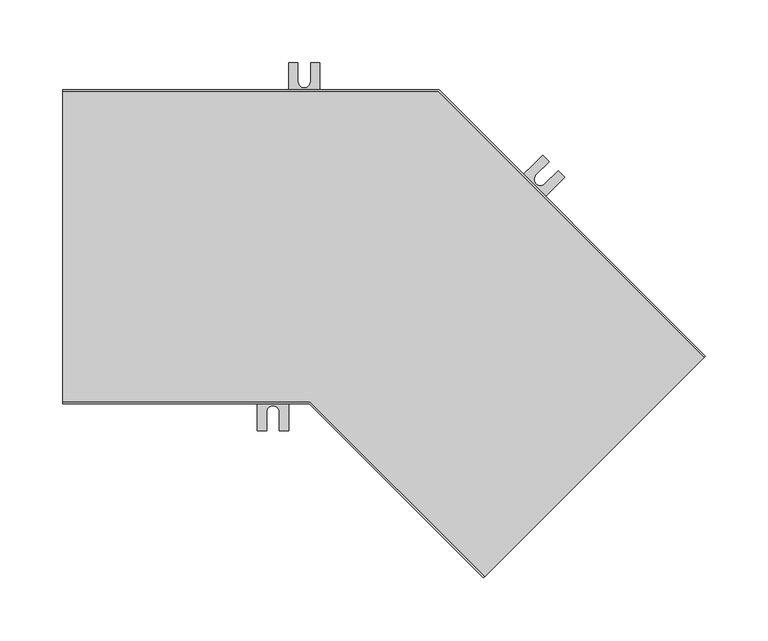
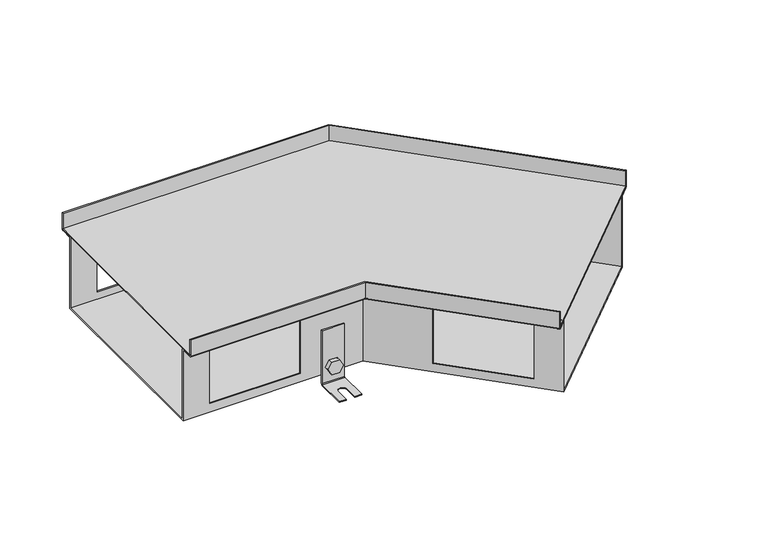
"""IFC4 building model written with IfcOpenShell, lengths in millimetres: proxy geometry, TECHNO_Угловой элемент_KVU : 250_105_135°."""

from ifc_helpers import new_model, si_unit, point, frame, frame_2d, origin, place, context, project, spatial, polyline, circle_curve, ellipse_curve, trimmed, segment, composite_curve, outline, extrude, source, transform, mapped, element, save
from ifc_brep_helpers import plane_surface, cylinder_surface, revolved_surface, advanced_brep


def mechanical_equipment_d0ffbf03(model_context):
    return source(origin(), model_context, "Body", "SolidModel", [
        extrude(outline(composite_curve([segment(trimmed(circle_curve(frame_2d((0.0, -7.5000001)), 7.5), [point((0.0, -15.0))], [point((0.0, 0.0))], False, "CARTESIAN"), True, "CONTINUOUS"), segment(trimmed(circle_curve(frame_2d((0.0, -7.5000001)), 7.5), [point((0.0, 0.0))], [point((0.0, -15.0))], False, "CARTESIAN"), True, "CONTINUOUS")], self_intersect=False)), frame((347.6589971, -25.3309017, -95.5), z_axis=(0.7071067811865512, 0.7071067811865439, 0.0), x_axis=(0.0, 0.0, 1.0)), (0.0, 0.0, 1.0), 1.5),
        extrude(outline(polyline([(0.0, 0.0), (8.6602541, 0.0), (12.9903811, -7.5), (8.660254, -15.0), (0.0, -15.0), (-4.330127, -7.5), (0.0, 0.0)])), frame((331.7771991, -18.3586492, -95.5), z_axis=(0.7071067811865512, 0.7071067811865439, 0.0), x_axis=(0.3535533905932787, -0.3535533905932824, -0.8660254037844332)), (0.0, 0.0, 1.0), 5.1),
        advanced_brep(
        [(350.3460028, -29.7149637, -50.5), (350.3460028, -29.7149637, -113.5), (349.7803174, -30.2806491, -114.3), (326.4457936, -53.6151729, -114.3), (326.4457936, -53.6151729, -115.5), (349.7803174, -30.2806491, -115.5), (351.194531, -28.8664356, -113.5), (351.194531, -28.8664356, -50.5), (332.6683333, -12.0372942, -50.5), (333.5168614, -11.1887661, -50.5), (333.5168614, -11.1887661, -113.5), (332.1026479, -12.6029796, -115.5), (308.7681241, -35.9375034, -115.5), (308.7681241, -35.9375034, -114.3), (332.1026479, -12.6029796, -114.3), (332.6683333, -12.0372942, -113.5), (314.0714249, -41.2408043, -114.3), (324.6780267, -30.6342025, -114.3), (331.7490945, -37.7052704, -114.3), (321.1424928, -48.3118721, -114.3), (321.1424928, -48.3118721, -115.5), (314.0714249, -41.2408043, -115.5), (331.7490945, -37.7052704, -115.5), (324.6780267, -30.6342025, -115.5)],
        [
            (0, 1),
            (1, 2, circle_curve(frame((349.7803174, -30.2806491, -113.5), z_axis=(-0.7071067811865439, 0.7071067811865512, 0.0), x_axis=(-0.7071067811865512, -0.7071067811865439, 0.0)), 0.8)),
            (2, 3),
            (3, 4),
            (4, 5),
            (5, 6, circle_curve(frame((349.7803174, -30.2806491, -113.5), z_axis=(0.7071067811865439, -0.7071067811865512, 0.0), x_axis=(-0.7071067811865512, -0.7071067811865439, 0.0)), 2.0)),
            (6, 7),
            (7, 0),
            (8, 9),
            (9, 10),
            (10, 11, circle_curve(frame((332.1026479, -12.6029796, -113.5), z_axis=(-0.7071067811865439, 0.7071067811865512, 0.0), x_axis=(-0.7071067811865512, -0.7071067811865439, 0.0)), 2.0)),
            (11, 12),
            (12, 13),
            (13, 14),
            (14, 15, circle_curve(frame((332.1026479, -12.6029796, -113.5), z_axis=(0.7071067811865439, -0.7071067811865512, 0.0), x_axis=(-0.7071067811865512, -0.7071067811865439, 0.0)), 0.8)),
            (15, 8),
            (0, 8),
            (15, 1),
            (14, 2),
            (13, 16),
            (16, 17),
            (17, 18, circle_curve(frame((328.2135606, -34.1697364, -114.3), z_axis=(0.0, 0.0, -1.0), x_axis=(0.7071067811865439, -0.7071067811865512, 0.0)), 5.0)),
            (18, 19),
            (19, 3),
            (19, 20),
            (20, 4),
            (12, 21),
            (21, 16),
            (20, 22),
            (22, 23, circle_curve(frame((328.2135606, -34.1697364, -115.5), z_axis=(0.0, 0.0, 1.0), x_axis=(0.7071067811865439, -0.7071067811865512, 0.0)), 5.0)),
            (23, 21),
            (11, 5),
            (10, 6),
            (9, 7),
            (23, 17),
            (18, 22),
        ],
        [
            plane_surface(frame((350.3460028, -29.7149637, -50.5), z_axis=(0.7071067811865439, -0.7071067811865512, 0.0), x_axis=(0.0, 0.0, -1.0))),
            plane_surface(frame((332.6683333, -12.0372942, -50.5), z_axis=(-0.7071067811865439, 0.7071067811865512, 0.0), x_axis=(0.0, 0.0, 1.0))),
            plane_surface(frame((350.3460028, -29.7149637, -50.5), z_axis=(-0.7071067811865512, -0.7071067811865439, 0.0), x_axis=(-0.7071067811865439, 0.7071067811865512, 0.0))),
            revolved_surface(polyline([(331.53696247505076, -13.168665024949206, -113.5), (349.2146319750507, -30.84633452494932, -113.5)]), (332.1026479, -12.6029796, -113.5), (-0.7071067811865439, 0.7071067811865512, 0.0)),
            plane_surface(frame((349.7803174, -30.2806491, -114.3), z_axis=(0.0, 0.0, 1.0), x_axis=(-0.7071067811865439, 0.7071067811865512, 0.0))),
            plane_surface(frame((326.4457936, -53.6151729, -114.3), z_axis=(-0.7071067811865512, -0.7071067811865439, 0.0), x_axis=(-0.7071067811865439, 0.7071067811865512, 0.0))),
            plane_surface(frame((326.4457936, -53.6151729, -115.5), z_axis=(0.0, 0.0, -1.0), x_axis=(-0.7071067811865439, 0.7071067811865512, 0.0))),
            cylinder_surface(frame((332.1026479, -12.6029796, -113.5), z_axis=(0.7071067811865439, -0.7071067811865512, 0.0), x_axis=(-0.7071067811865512, -0.7071067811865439, 0.0)), 2.0),
            plane_surface(frame((351.194531, -28.8664356, -113.5), z_axis=(0.7071067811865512, 0.7071067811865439, 0.0), x_axis=(-0.7071067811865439, 0.7071067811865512, 0.0))),
            plane_surface(frame((351.194531, -28.8664356, -50.5), z_axis=(0.0, 0.0, 1.0), x_axis=(-0.7071067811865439, 0.7071067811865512, 0.0))),
            plane_surface(frame((324.6780267, -30.6342025, -114.3), z_axis=(0.7071067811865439, -0.7071067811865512, 0.0), x_axis=(0.0, 0.0, -1.0))),
            plane_surface(frame((321.1424928, -48.3118721, -114.3), z_axis=(-0.707106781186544, 0.7071067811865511, 0.0), x_axis=(0.0, 0.0, -1.0))),
            revolved_surface(polyline([(331.7490945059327, -37.70527030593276, -114.3), (331.7490945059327, -37.70527030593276, -115.5)]), (328.2135606, -34.1697364, -115.5), (0.0, 0.0, 1.0)),
        ],
        [
            (0, [[1, 2, 3, 4, 5, 6, 7, 8]]),
            (1, [[9, 10, 11, 12, 13, 14, 15, 16]]),
            (2, [[-1, 17, -16, 18]]),
            (3, [[-2, -18, -15, 19]]),
            (4, [[-3, -19, -14, 20, 21, 22, 23, 24]]),
            (5, [[-4, -24, 25, 26]]),
            (5, [[-13, 27, 28, -20]]),
            (6, [[-5, -26, 29, 30, 31, -27, -12, 32]]),
            (7, [[-6, -32, -11, 33]]),
            (8, [[-7, -33, -10, 34]]),
            (9, [[-8, -34, -9, -17]]),
            (10, [[35, -21, -28, -31]]),
            (11, [[36, -29, -25, -23]]),
            (12, [[-35, -30, -36, -22]]),
        ],
    ),
        extrude(outline(composite_curve([segment(trimmed(circle_curve(frame_2d((0.0, -7.4999999)), 7.5), [point((0.0, -15.0))], [point((0.0, 0.0))], False, "CARTESIAN"), True, "CONTINUOUS"), segment(trimmed(circle_curve(frame_2d((0.0, -7.4999999)), 7.5), [point((0.0, 0.0))], [point((0.0, -15.0))], False, "CARTESIAN"), True, "CONTINUOUS")], self_intersect=False)), frame((360.2454978, 43.8241415, -95.5), z_axis=(0.7071067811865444, 0.7071067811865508, 0.0), x_axis=(0.0, 0.0, -1.0)), (0.0, 0.0, 1.0), 1.5),
        extrude(outline(polyline([(0.0, 0.0), (4.330127, -7.5), (0.0, -15.0), (-8.660254, -15.0), (-12.9903811, -7.5), (-8.6602541, 0.0), (0.0, 0.0)])), frame((373.5817113, 34.3063046, -95.5), z_axis=(0.7071067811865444, 0.7071067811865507, 0.0), x_axis=(0.35355339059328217, -0.35355339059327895, 0.8660254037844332)), (0.0, 0.0, 1.0), 5.1),
        advanced_brep(
        [(358.6191522, 49.2688637, -50.5), (358.6191522, 49.2688637, -113.5), (359.1848376, 49.8345492, -114.3), (382.5193614, 73.1690729, -114.3), (382.5193614, 73.1690729, -115.5), (359.1848376, 49.8345492, -115.5), (357.770624, 48.4203356, -113.5), (357.770624, 48.4203356, -50.5), (376.2968217, 31.5911942, -50.5), (375.4482936, 30.7426661, -50.5), (375.4482936, 30.7426661, -113.5), (376.8625071, 32.1568796, -115.5), (400.1970309, 55.4914034, -115.5), (400.1970309, 55.4914034, -114.3), (376.8625071, 32.1568796, -114.3), (376.2968217, 31.5911942, -113.5), (394.89373, 60.7947043, -114.3), (384.2871283, 50.1881026, -114.3), (377.2160605, 57.2591704, -114.3), (387.8226622, 67.8657721, -114.3), (387.8226622, 67.8657721, -115.5), (394.89373, 60.7947043, -115.5), (377.2160605, 57.2591704, -115.5), (384.2871283, 50.1881026, -115.5)],
        [
            (0, 1),
            (1, 2, circle_curve(frame((359.1848376, 49.8345492, -113.5), z_axis=(0.7071067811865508, -0.7071067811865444, 0.0), x_axis=(0.7071067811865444, 0.7071067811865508, 0.0)), 0.8)),
            (2, 3),
            (3, 4),
            (4, 5),
            (5, 6, circle_curve(frame((359.1848376, 49.8345492, -113.5), z_axis=(-0.7071067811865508, 0.7071067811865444, 0.0), x_axis=(0.7071067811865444, 0.7071067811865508, 0.0)), 2.0)),
            (6, 7),
            (7, 0),
            (8, 9),
            (9, 10),
            (10, 11, circle_curve(frame((376.8625071, 32.1568796, -113.5), z_axis=(0.7071067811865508, -0.7071067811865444, 0.0), x_axis=(0.7071067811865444, 0.7071067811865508, 0.0)), 2.0)),
            (11, 12),
            (12, 13),
            (13, 14),
            (14, 15, circle_curve(frame((376.8625071, 32.1568796, -113.5), z_axis=(-0.7071067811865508, 0.7071067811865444, 0.0), x_axis=(0.7071067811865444, 0.7071067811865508, 0.0)), 0.8)),
            (15, 8),
            (0, 8),
            (15, 1),
            (14, 2),
            (13, 16),
            (16, 17),
            (17, 18, circle_curve(frame((380.7515944, 53.7236365, -114.3), z_axis=(0.0, 0.0, -1.0), x_axis=(-0.7071067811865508, 0.7071067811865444, 0.0)), 5.0)),
            (18, 19),
            (19, 3),
            (19, 20),
            (20, 4),
            (12, 21),
            (21, 16),
            (20, 22),
            (22, 23, circle_curve(frame((380.7515944, 53.7236365, -115.5), z_axis=(0.0, 0.0, 1.0), x_axis=(-0.7071067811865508, 0.7071067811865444, 0.0)), 5.0)),
            (23, 21),
            (11, 5),
            (10, 6),
            (9, 7),
            (23, 17),
            (18, 22),
        ],
        [
            plane_surface(frame((358.6191522, 49.2688637, -50.5), z_axis=(-0.7071067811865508, 0.7071067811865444, 0.0), x_axis=(0.0, 0.0, -1.0))),
            plane_surface(frame((376.2968217, 31.5911942, -50.5), z_axis=(0.7071067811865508, -0.7071067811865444, 0.0), x_axis=(0.0, 0.0, 1.0))),
            plane_surface(frame((358.6191522, 49.2688637, -50.5), z_axis=(0.7071067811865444, 0.7071067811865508, 0.0), x_axis=(0.7071067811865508, -0.7071067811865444, 0.0))),
            revolved_surface(polyline([(377.4281925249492, 32.72256502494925, -113.5), (359.75052297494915, 50.40023457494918, -113.5)]), (376.8625071, 32.1568796, -113.5), (0.7071067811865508, -0.7071067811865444, 0.0)),
            plane_surface(frame((359.1848376, 49.8345492, -114.3), z_axis=(0.0, 0.0, 1.0000000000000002), x_axis=(0.7071067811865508, -0.7071067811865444, 0.0))),
            plane_surface(frame((382.5193614, 73.1690729, -114.3), z_axis=(0.7071067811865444, 0.7071067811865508, 0.0), x_axis=(0.7071067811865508, -0.7071067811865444, 0.0))),
            plane_surface(frame((382.5193614, 73.1690729, -115.5), z_axis=(0.0, 0.0, -1.0000000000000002), x_axis=(0.7071067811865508, -0.7071067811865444, 0.0))),
            cylinder_surface(frame((376.8625071, 32.1568796, -113.5), z_axis=(-0.7071067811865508, 0.7071067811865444, 0.0), x_axis=(0.7071067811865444, 0.7071067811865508, 0.0)), 2.0),
            plane_surface(frame((357.770624, 48.4203356, -113.5), z_axis=(-0.7071067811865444, -0.7071067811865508, 0.0), x_axis=(0.7071067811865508, -0.7071067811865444, 0.0))),
            plane_surface(frame((357.770624, 48.4203356, -50.5), z_axis=(0.0, 0.0, 1.0000000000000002), x_axis=(0.7071067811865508, -0.7071067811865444, 0.0))),
            plane_surface(frame((384.2871283, 50.1881026, -114.3), z_axis=(-0.7071067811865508, 0.7071067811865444, 0.0), x_axis=(0.0, 0.0, -1.0))),
            plane_surface(frame((387.8226622, 67.8657721, -114.3), z_axis=(0.7071067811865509, -0.7071067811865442, 0.0), x_axis=(0.0, 0.0, -1.0))),
            revolved_surface(polyline([(377.2160604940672, 57.25917040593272, -114.3), (377.2160604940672, 57.25917040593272, -115.5)]), (380.7515944, 53.7236365, -115.5), (0.0, 0.0, 1.0)),
        ],
        [
            (0, [[1, 2, 3, 4, 5, 6, 7, 8]]),
            (1, [[9, 10, 11, 12, 13, 14, 15, 16]]),
            (2, [[-1, 17, -16, 18]]),
            (3, [[-2, -18, -15, 19]]),
            (4, [[-3, -19, -14, 20, 21, 22, 23, 24]]),
            (5, [[-4, -24, 25, 26]]),
            (5, [[-13, 27, 28, -20]]),
            (6, [[-5, -26, 29, 30, 31, -27, -12, 32]]),
            (7, [[-6, -32, -11, 33]]),
            (8, [[-7, -33, -10, 34]]),
            (9, [[-8, -34, -9, -17]]),
            (10, [[35, -21, -28, -31]]),
            (11, [[36, -29, -25, -23]]),
            (12, [[-35, -30, -36, -22]]),
        ],
    ),
        extrude(outline(composite_curve([segment(trimmed(circle_curve(frame_2d((-95.5, 192.5)), 7.5), [point((-95.5, 185.0))], [point((-95.5, 200.0))], False, "CARTESIAN"), True, "CONTINUOUS"), segment(trimmed(circle_curve(frame_2d((-95.5, 192.5)), 7.5), [point((-95.5, 200.0))], [point((-95.5, 185.0))], False, "CARTESIAN"), True, "CONTINUOUS")], self_intersect=False)), frame((0.0, 110.2, 0.0), z_axis=(0.0, 1.0, 0.0), x_axis=(0.0, 0.0, 1.0)), (0.0, 0.0, 1.0), 1.5),
        extrude(outline(polyline([(-95.5, 183.839746), (-103.0, 188.169873), (-103.0, 196.830127), (-95.5, 201.160254), (-88.0, 196.830127), (-88.0, 188.169873), (-95.5, 183.839746)])), frame((0.0, 112.9, 0.0), z_axis=(0.0, 1.0, 0.0), x_axis=(0.0, 0.0, 1.0)), (0.0, 0.0, 1.0), 5.1),
        advanced_brep(
        [(205.0, 112.9, -50.5), (205.0, 111.7, -50.5), (205.0, 111.7, -113.5), (205.0, 113.7, -115.5), (205.0, 146.7, -115.5), (205.0, 146.7, -114.3), (205.0, 113.7, -114.3), (205.0, 112.9, -113.5), (180.0, 112.9, -50.5), (180.0, 112.9, -113.5), (180.0, 113.7, -114.3), (180.0, 146.7, -114.3), (180.0, 146.7, -115.5), (180.0, 113.7, -115.5), (180.0, 111.7, -113.5), (180.0, 111.7, -50.5), (197.5, 146.7, -114.3), (197.5, 131.7, -114.3), (187.5, 131.7, -114.3), (187.5, 146.7, -114.3), (187.5, 146.7, -115.5), (197.5, 146.7, -115.5), (187.5, 131.7, -115.5), (197.5, 131.7, -115.5)],
        [
            (0, 1),
            (1, 2),
            (2, 3, circle_curve(frame((205.0, 113.7, -113.5), z_axis=(1.0, 0.0, 0.0), x_axis=(0.0, 1.0, 0.0)), 2.0)),
            (3, 4),
            (4, 5),
            (5, 6),
            (6, 7, circle_curve(frame((205.0, 113.7, -113.5), z_axis=(-1.0, 0.0, 0.0), x_axis=(0.0, 1.0, 0.0)), 0.8)),
            (7, 0),
            (8, 9),
            (9, 10, circle_curve(frame((180.0, 113.7, -113.5), z_axis=(1.0, 0.0, 0.0), x_axis=(0.0, 1.0, 0.0)), 0.8)),
            (10, 11),
            (11, 12),
            (12, 13),
            (13, 14, circle_curve(frame((180.0, 113.7, -113.5), z_axis=(-1.0, 0.0, 0.0), x_axis=(0.0, 1.0, 0.0)), 2.0)),
            (14, 15),
            (15, 8),
            (7, 9),
            (8, 0),
            (6, 10),
            (5, 16),
            (16, 17),
            (17, 18, circle_curve(frame((192.5, 131.7, -114.3), z_axis=(0.0, 0.0, -1.0), x_axis=(1.0, 0.0, 0.0)), 5.0)),
            (18, 19),
            (19, 11),
            (19, 20),
            (20, 12),
            (4, 21),
            (21, 16),
            (3, 13),
            (20, 22),
            (22, 23, circle_curve(frame((192.5, 131.7, -115.5), z_axis=(0.0, 0.0, 1.0), x_axis=(1.0, 0.0, 0.0)), 5.0)),
            (23, 21),
            (2, 14),
            (1, 15),
            (18, 22),
            (23, 17),
        ],
        [
            plane_surface(frame((205.0, 112.9, -50.5), z_axis=(1.0, 0.0, 0.0), x_axis=(0.0, 0.0, -1.0))),
            plane_surface(frame((180.0, 112.9, -50.5), z_axis=(-1.0, 0.0, 0.0), x_axis=(0.0, 0.0, 1.0))),
            plane_surface(frame((205.0, 112.9, -50.5), z_axis=(0.0, 1.0, 0.0), x_axis=(-1.0, 0.0, 0.0))),
            revolved_surface(polyline([(180.0, 114.5, -113.5), (205.0, 114.5, -113.5)]), (180.0, 113.7, -113.5), (-1.0, 0.0, 0.0)),
            plane_surface(frame((205.0, 113.7, -114.3), z_axis=(0.0, 0.0, 1.0), x_axis=(-1.0, 0.0, 0.0))),
            plane_surface(frame((205.0, 146.7, -114.3), z_axis=(0.0, 1.0, 0.0), x_axis=(-1.0, 0.0, 0.0))),
            plane_surface(frame((205.0, 146.7, -115.5), z_axis=(0.0, 0.0, -1.0), x_axis=(-1.0, 0.0, 0.0))),
            cylinder_surface(frame((180.0, 113.7, -113.5), z_axis=(1.0, 0.0, 0.0), x_axis=(0.0, 1.0, 0.0)), 2.0),
            plane_surface(frame((205.0, 111.7, -113.5), z_axis=(0.0, -1.0, 0.0), x_axis=(-1.0, 0.0, 0.0))),
            plane_surface(frame((205.0, 111.7, -50.5), z_axis=(0.0, 0.0, 1.0), x_axis=(-1.0, 0.0, 0.0))),
            plane_surface(frame((187.5, 131.7, -114.3), z_axis=(1.0, 0.0, 0.0), x_axis=(0.0, 0.0, -1.0))),
            plane_surface(frame((197.5, 146.7, -114.3), z_axis=(-1.0, 0.0, 0.0), x_axis=(0.0, 0.0, -1.0))),
            revolved_surface(polyline([(197.5, 131.7, -114.3), (197.5, 131.7, -115.5)]), (192.5, 131.7, -115.5), (0.0, 0.0, 1.0)),
        ],
        [
            (0, [[1, 2, 3, 4, 5, 6, 7, 8]]),
            (1, [[9, 10, 11, 12, 13, 14, 15, 16]]),
            (2, [[17, -9, 18, -8]]),
            (3, [[19, -10, -17, -7]]),
            (4, [[20, 21, 22, 23, 24, -11, -19, -6]]),
            (5, [[-24, 25, 26, -12]]),
            (5, [[27, 28, -20, -5]]),
            (6, [[29, -13, -26, 30, 31, 32, -27, -4]]),
            (7, [[33, -14, -29, -3]]),
            (8, [[34, -15, -33, -2]]),
            (9, [[-18, -16, -34, -1]]),
            (10, [[-30, -25, -23, 35]]),
            (11, [[-21, -28, -32, 36]]),
            (12, [[-22, -36, -31, -35]]),
        ],
    ),
        extrude(outline(composite_curve([segment(trimmed(circle_curve(frame_2d((-95.5, 167.5)), 7.5), [point((-95.5, 160.0))], [point((-95.5, 175.0))], False, "CARTESIAN"), True, "CONTINUOUS"), segment(trimmed(circle_curve(frame_2d((-95.5, 167.5)), 7.5), [point((-95.5, 175.0))], [point((-95.5, 160.0))], False, "CARTESIAN"), True, "CONTINUOUS")], self_intersect=False)), frame((0.0, -111.7, 0.0), z_axis=(0.0, 1.0, 0.0), x_axis=(0.0, 0.0, 1.0)), (0.0, 0.0, 1.0), 1.5),
        extrude(outline(polyline([(-95.5, 158.839746), (-103.0, 163.169873), (-103.0, 171.830127), (-95.5, 176.160254), (-88.0, 171.830127), (-88.0, 163.169873), (-95.5, 158.839746)])), frame((0.0, -118.0, 0.0), z_axis=(0.0, 1.0, 0.0), x_axis=(0.0, 0.0, 1.0)), (0.0, 0.0, 1.0), 5.1),
        advanced_brep(
        [(180.0, -112.9, -50.5), (180.0, -112.9, -113.5), (180.0, -113.7, -114.3), (180.0, -146.7, -114.3), (180.0, -146.7, -115.5), (180.0, -113.7, -115.5), (180.0, -111.7, -113.5), (180.0, -111.7, -50.5), (155.0, -112.9, -50.5), (155.0, -111.7, -50.5), (155.0, -111.7, -113.5), (155.0, -113.7, -115.5), (155.0, -146.7, -115.5), (155.0, -146.7, -114.3), (155.0, -113.7, -114.3), (155.0, -112.9, -113.5), (162.5, -146.7, -114.3), (162.5, -131.7, -114.3), (172.5, -131.7, -114.3), (172.5, -146.7, -114.3), (172.5, -146.7, -115.5), (162.5, -146.7, -115.5), (172.5, -131.7, -115.5), (162.5, -131.7, -115.5)],
        [
            (0, 1),
            (1, 2, circle_curve(frame((180.0, -113.7, -113.5), z_axis=(-1.0, 0.0, 0.0), x_axis=(0.0, -1.0, 0.0)), 0.8)),
            (2, 3),
            (3, 4),
            (4, 5),
            (5, 6, circle_curve(frame((180.0, -113.7, -113.5), z_axis=(1.0, 0.0, 0.0), x_axis=(0.0, -1.0, 0.0)), 2.0)),
            (6, 7),
            (7, 0),
            (8, 9),
            (9, 10),
            (10, 11, circle_curve(frame((155.0, -113.7, -113.5), z_axis=(-1.0, 0.0, 0.0), x_axis=(0.0, -1.0, 0.0)), 2.0)),
            (11, 12),
            (12, 13),
            (13, 14),
            (14, 15, circle_curve(frame((155.0, -113.7, -113.5), z_axis=(1.0, 0.0, 0.0), x_axis=(0.0, -1.0, 0.0)), 0.8)),
            (15, 8),
            (0, 8),
            (15, 1),
            (14, 2),
            (13, 16),
            (16, 17),
            (17, 18, circle_curve(frame((167.5, -131.7, -114.3), z_axis=(0.0, 0.0, -1.0), x_axis=(1.0, 0.0, 0.0)), 5.0)),
            (18, 19),
            (19, 3),
            (19, 20),
            (20, 4),
            (12, 21),
            (21, 16),
            (20, 22),
            (22, 23, circle_curve(frame((167.5, -131.7, -115.5), z_axis=(0.0, 0.0, 1.0), x_axis=(1.0, 0.0, 0.0)), 5.0)),
            (23, 21),
            (11, 5),
            (10, 6),
            (9, 7),
            (23, 17),
            (18, 22),
        ],
        [
            plane_surface(frame((180.0, -112.9, -50.5), z_axis=(1.0, 0.0, 0.0), x_axis=(0.0, 0.0, -1.0))),
            plane_surface(frame((155.0, -112.9, -50.5), z_axis=(-1.0, 0.0, 0.0), x_axis=(0.0, 0.0, 1.0))),
            plane_surface(frame((180.0, -112.9, -50.5), z_axis=(0.0, -1.0, 0.0), x_axis=(-1.0, 0.0, 0.0))),
            revolved_surface(polyline([(155.0, -114.5, -113.5), (180.0, -114.5, -113.5)]), (155.0, -113.7, -113.5), (-1.0, 0.0, 0.0)),
            plane_surface(frame((180.0, -113.7, -114.3), z_axis=(0.0, 0.0, 1.0), x_axis=(-1.0, 0.0, 0.0))),
            plane_surface(frame((180.0, -146.7, -114.3), z_axis=(0.0, -1.0, 0.0), x_axis=(-1.0, 0.0, 0.0))),
            plane_surface(frame((180.0, -146.7, -115.5), z_axis=(0.0, 0.0, -1.0), x_axis=(-1.0, 0.0, 0.0))),
            cylinder_surface(frame((155.0, -113.7, -113.5), z_axis=(1.0, 0.0, 0.0), x_axis=(0.0, -1.0, 0.0)), 2.0),
            plane_surface(frame((180.0, -111.7, -113.5), z_axis=(0.0, 1.0, 0.0), x_axis=(-1.0, 0.0, 0.0))),
            plane_surface(frame((180.0, -111.7, -50.5), z_axis=(0.0, 0.0, 1.0), x_axis=(-1.0, 0.0, 0.0))),
            plane_surface(frame((162.5, -131.7, -114.3), z_axis=(1.0, 0.0, 0.0), x_axis=(0.0, 0.0, -1.0))),
            plane_surface(frame((172.5, -146.7, -114.3), z_axis=(-1.0, 0.0, 0.0), x_axis=(0.0, 0.0, -1.0))),
            revolved_surface(polyline([(172.5, -131.7, -114.3), (172.5, -131.7, -115.5)]), (167.5, -131.7, -115.5), (0.0, 0.0, 1.0)),
        ],
        [
            (0, [[1, 2, 3, 4, 5, 6, 7, 8]]),
            (1, [[9, 10, 11, 12, 13, 14, 15, 16]]),
            (2, [[-1, 17, -16, 18]]),
            (3, [[-2, -18, -15, 19]]),
            (4, [[-3, -19, -14, 20, 21, 22, 23, 24]]),
            (5, [[-4, -24, 25, 26]]),
            (5, [[-13, 27, 28, -20]]),
            (6, [[-5, -26, 29, 30, 31, -27, -12, 32]]),
            (7, [[-6, -32, -11, 33]]),
            (8, [[-7, -33, -10, 34]]),
            (9, [[-8, -34, -9, -17]]),
            (10, [[35, -21, -28, -31]]),
            (11, [[36, -29, -25, -23]]),
            (12, [[-35, -30, -36, -22]]),
        ],
    ),
        extrude(outline(polyline([(511.2835062, -87.9805625), (336.2038672, -263.0602015), (196.9436657, -123.8), (0.0, -123.8), (0.0, 123.8), (299.5029437, 123.8), (511.2835062, -87.9805625)])), frame((0.0, 0.0, -19.3), z_axis=(0.0, 0.0, 1.0), x_axis=(1.0, 0.0, 0.0)), (0.0, 0.0, 1.0), 1.2),
        advanced_brep(
        [(335.3553391, -263.9087297, -19.3), (336.2038672, -263.0602015, -20.5), (345.8205194, -253.4435493, -20.5), (345.8205194, -253.4435493, -105.0), (501.666854, -97.5972147, -105.0), (501.666854, -97.5972147, -20.5), (511.2835062, -87.9805625, -20.5), (512.1320344, -87.1320344, -19.3), (512.1320344, -87.1320344, 0.0), (511.2835062, -87.9805625, 0.0), (511.2835062, -87.9805625, -19.3), (501.666854, -97.5972147, -19.3), (500.8183259, -98.4457429, -20.5), (500.8183259, -98.4457429, -103.8), (346.6690476, -252.5950212, -103.8), (346.6690476, -252.5950212, -20.5), (345.8205194, -253.4435493, -19.3), (336.2038672, -263.0602015, -19.3), (336.2038672, -263.0602015, 0.0), (335.3553391, -263.9087297, 0.0), (0.0, -125.0, -19.3), (0.0, -125.0, 0.0), (0.0, -123.8, 0.0), (0.0, -123.8, -19.3), (0.0, -110.2, -19.3), (0.0, -109.0, -20.5), (0.0, -109.0, -103.8), (0.0, 109.0, -103.8), (0.0, 109.0, -20.5), (0.0, 110.2, -19.3), (0.0, 123.8, -19.3), (0.0, 123.8, 0.0), (0.0, 125.0, 0.0), (0.0, 125.0, -19.3), (0.0, 123.8, -20.5), (0.0, 110.2, -20.5), (0.0, 110.2, -105.0), (0.0, -110.2, -105.0), (0.0, -110.2, -20.5), (0.0, -123.8, -20.5), (196.9436657, -123.8, -20.5), (196.4466094, -125.0, -19.3), (196.9436657, -123.8, 0.0), (196.9436657, -123.8, -19.3), (202.5769701, -110.2, -105.0), (202.5769701, -110.2, -20.5), (30.0, -110.2, -30.5), (132.0, -110.2, -30.5), (132.0, -110.2, -95.0), (30.0, -110.2, -95.0), (203.0740264, -109.0, -20.5), (203.0740264, -109.0, -103.8), (132.0, -109.0, -30.5), (30.0, -109.0, -30.5), (30.0, -109.0, -95.0), (132.0, -109.0, -95.0), (202.5769701, -110.2, -19.3), (252.4824243, -160.1054542, -30.5), (324.607316, -232.2303459, -30.5), (324.607316, -232.2303459, -95.0), (252.4824243, -160.1054542, -95.0), (293.8696393, 110.2, -105.0), (293.372583, 109.0, -103.8), (325.4558441, -231.3818177, -30.5), (253.3309524, -159.256926, -30.5), (253.3309524, -159.256926, -95.0), (325.4558441, -231.3818177, -95.0), (196.4466094, -125.0, 0.0), (293.8696393, 110.2, -20.5), (480.4536506, -76.3840113, -30.5), (408.3287589, -4.2591196, -30.5), (408.3287589, -4.2591196, -95.0), (480.4536506, -76.3840113, -95.0), (299.5029437, 123.8, -20.5), (300.0, 125.0, -19.3), (300.0, 125.0, 0.0), (299.5029437, 123.8, 0.0), (299.5029437, 123.8, -19.3), (293.8696393, 110.2, -19.3), (293.372583, 109.0, -20.5), (407.4802307, -5.1076477, -30.5), (479.6051224, -77.2325394, -30.5), (479.6051224, -77.2325394, -95.0), (407.4802307, -5.1076477, -95.0), (132.0, 110.2, -30.5), (30.0, 110.2, -30.5), (30.0, 110.2, -95.0), (132.0, 110.2, -95.0), (30.0, 109.0, -30.5), (132.0, 109.0, -30.5), (132.0, 109.0, -95.0), (30.0, 109.0, -95.0)],
        [
            (0, 1, circle_curve(frame((336.2038672, -263.0602015, -19.3), z_axis=(0.707106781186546, -0.707106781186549, 0.0), x_axis=(-0.707106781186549, -0.707106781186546, 0.0)), 1.2)),
            (1, 2),
            (2, 3),
            (3, 4),
            (4, 5),
            (5, 6),
            (6, 7, circle_curve(frame((511.2835062, -87.9805625, -19.3), z_axis=(0.707106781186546, -0.707106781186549, 0.0), x_axis=(-0.707106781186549, -0.707106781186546, 0.0)), 1.2)),
            (7, 8),
            (8, 9),
            (9, 10),
            (10, 11),
            (11, 12, circle_curve(frame((501.666854, -97.5972147, -20.5), z_axis=(0.707106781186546, -0.707106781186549, 0.0), x_axis=(-0.707106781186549, -0.707106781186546, 0.0)), 1.2)),
            (12, 13),
            (13, 14),
            (14, 15),
            (15, 16, circle_curve(frame((345.8205194, -253.4435493, -20.5), z_axis=(0.707106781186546, -0.707106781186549, 0.0), x_axis=(-0.707106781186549, -0.707106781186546, 0.0)), 1.2)),
            (16, 17),
            (17, 18),
            (18, 19),
            (19, 0),
            (20, 21),
            (21, 22),
            (22, 23),
            (23, 24),
            (24, 25, circle_curve(frame((0.0, -110.2, -20.5), z_axis=(-1.0, 0.0, 0.0), x_axis=(0.0, -1.0, 0.0)), 1.2)),
            (25, 26),
            (26, 27),
            (27, 28),
            (28, 29, circle_curve(frame((0.0, 110.2, -20.5), z_axis=(-1.0, 0.0, 0.0), x_axis=(0.0, -1.0, 0.0)), 1.2)),
            (29, 30),
            (30, 31),
            (31, 32),
            (32, 33),
            (33, 34, circle_curve(frame((0.0, 123.8, -19.3), z_axis=(-1.0, 0.0, 0.0), x_axis=(0.0, -1.0, 0.0)), 1.2)),
            (34, 35),
            (35, 36),
            (36, 37),
            (37, 38),
            (38, 39),
            (39, 20, circle_curve(frame((0.0, -123.8, -19.3), z_axis=(-1.0, 0.0, 0.0), x_axis=(0.0, -1.0, 0.0)), 1.2)),
            (39, 40),
            (40, 41, ellipse_curve(frame((196.9436657, -123.8, -19.3), z_axis=(-0.9238795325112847, 0.3826834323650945, 0.0), x_axis=(0.3826834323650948, 0.9238795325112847, 0.0)), 1.2988706, 1.2)),
            (41, 20),
            (22, 42),
            (42, 43),
            (43, 23),
            (37, 44),
            (44, 45),
            (45, 38),
            (46, 47),
            (47, 48),
            (48, 49),
            (49, 46),
            (25, 50),
            (50, 51),
            (51, 26),
            (52, 53),
            (53, 54),
            (54, 55),
            (55, 52),
            (24, 56),
            (56, 50, ellipse_curve(frame((202.5769701, -110.2, -20.5), z_axis=(-0.9238795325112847, 0.3826834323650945, 0.0), x_axis=(0.3826834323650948, 0.9238795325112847, 0.0)), 1.2988706, 1.2)),
            (0, 41),
            (40, 1),
            (45, 2),
            (44, 3),
            (57, 58),
            (58, 59),
            (59, 60),
            (60, 57),
            (36, 61),
            (61, 4),
            (13, 62),
            (62, 27),
            (51, 14),
            (50, 15),
            (63, 64),
            (64, 65),
            (65, 66),
            (66, 63),
            (56, 16),
            (43, 17),
            (42, 18),
            (21, 67),
            (67, 19),
            (61, 68),
            (68, 5),
            (69, 70),
            (70, 71),
            (71, 72),
            (72, 69),
            (68, 35),
            (34, 73),
            (73, 6),
            (73, 74, ellipse_curve(frame((299.5029437, 123.8, -19.3), z_axis=(0.9238795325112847, -0.3826834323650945, 0.0), x_axis=(-0.38268343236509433, -0.9238795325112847, 0.0)), 1.2988706, 1.2)),
            (74, 7),
            (74, 75),
            (75, 8),
            (75, 32),
            (31, 76),
            (76, 9),
            (76, 77),
            (77, 10),
            (77, 30),
            (29, 78),
            (78, 11),
            (78, 79, ellipse_curve(frame((293.8696393, 110.2, -20.5), z_axis=(0.9238795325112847, -0.3826834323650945, 0.0), x_axis=(-0.38268343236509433, -0.9238795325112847, 0.0)), 1.2988706, 1.2)),
            (79, 12),
            (79, 62),
            (80, 81),
            (81, 82),
            (82, 83),
            (83, 80),
            (84, 85),
            (85, 86),
            (86, 87),
            (87, 84),
            (33, 74),
            (28, 79),
            (88, 89),
            (89, 90),
            (90, 91),
            (91, 88),
            (41, 67),
            (46, 53),
            (52, 47),
            (88, 85),
            (84, 89),
            (49, 54),
            (91, 86),
            (48, 55),
            (90, 87),
            (57, 64),
            (63, 58),
            (80, 70),
            (69, 81),
            (66, 59),
            (72, 82),
            (65, 60),
            (71, 83),
        ],
        [
            plane_surface(frame((423.7436867, -175.520382, 0.0), z_axis=(0.707106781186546, -0.707106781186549, 0.0), x_axis=(0.0, 0.0, 1.0))),
            plane_surface(frame((0.0, 0.0, 0.0), z_axis=(-1.0, 0.0, 0.0), x_axis=(0.0, 0.0, 1.0))),
            cylinder_surface(frame((248.2233047, -123.8, -19.3), z_axis=(1.0, 0.0, 0.0), x_axis=(0.0, -1.0, 0.0)), 1.2),
            plane_surface(frame((196.9436657, -123.8, -19.3), z_axis=(0.0, 1.0, 0.0), x_axis=(-1.0, 0.0, 0.0))),
            plane_surface(frame((202.5769701, -110.2, -20.5), z_axis=(0.0, -1.0, 0.0), x_axis=(-1.0, 0.0, 0.0))),
            plane_surface(frame((203.0740264, -109.0, -103.8), z_axis=(0.0, 1.0, 0.0), x_axis=(-1.0, 0.0, 0.0))),
            cylinder_surface(frame((248.2233047, -110.2, -20.5), z_axis=(1.0, 0.0, 0.0), x_axis=(0.0, -1.0, 0.0)), 1.2),
            cylinder_surface(frame((336.2038672, -263.0602015, -19.3), z_axis=(0.707106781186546, -0.707106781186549, 0.0), x_axis=(-0.707106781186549, -0.707106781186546, 0.0)), 1.2),
            plane_surface(frame((336.2038672, -263.0602015, -20.5), z_axis=(0.0, 0.0, -1.0), x_axis=(-0.707106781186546, 0.7071067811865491, 0.0))),
            plane_surface(frame((345.8205194, -253.4435493, -20.5), z_axis=(-0.7071067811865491, -0.7071067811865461, 0.0), x_axis=(-0.7071067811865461, 0.7071067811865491, 0.0))),
            plane_surface(frame((345.8205194, -253.4435493, -105.0), z_axis=(0.0, 0.0, -1.0), x_axis=(-0.7071067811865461, 0.7071067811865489, 0.0))),
            plane_surface(frame((500.8183259, -98.4457429, -103.8), z_axis=(0.0, 0.0, 1.0), x_axis=(-0.707106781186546, 0.7071067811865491, 0.0))),
            plane_surface(frame((346.6690476, -252.5950212, -103.8), z_axis=(0.707106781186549, 0.7071067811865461, 0.0), x_axis=(-0.7071067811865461, 0.707106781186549, 0.0))),
            cylinder_surface(frame((345.8205194, -253.4435493, -20.5), z_axis=(0.707106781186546, -0.707106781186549, 0.0), x_axis=(-0.707106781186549, -0.707106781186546, 0.0)), 1.2),
            plane_surface(frame((345.8205194, -253.4435493, -19.3), z_axis=(0.0, 0.0, 1.0000000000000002), x_axis=(-0.7071067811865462, 0.7071067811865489, 0.0))),
            plane_surface(frame((336.2038672, -263.0602015, -19.3), z_axis=(0.707106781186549, 0.7071067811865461, 0.0), x_axis=(-0.7071067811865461, 0.707106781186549, 0.0))),
            plane_surface(frame((336.2038672, -263.0602015, 0.0), z_axis=(0.0, 0.0, 1.0), x_axis=(-0.7071067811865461, 0.707106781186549, 0.0))),
            plane_surface(frame((501.666854, -97.5972147, -105.0), z_axis=(0.7071067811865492, 0.7071067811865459, 0.0), x_axis=(-0.7071067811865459, 0.7071067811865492, 0.0))),
            plane_surface(frame((501.666854, -97.5972147, -20.5), z_axis=(0.0, 0.0, -1.0000000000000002), x_axis=(-0.7071067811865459, 0.7071067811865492, 0.0))),
            cylinder_surface(frame((511.2835062, -87.9805625, -19.3), z_axis=(0.707106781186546, -0.707106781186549, 0.0), x_axis=(-0.707106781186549, -0.707106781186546, 0.0)), 1.2),
            plane_surface(frame((512.1320344, -87.1320344, -19.3), z_axis=(0.707106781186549, 0.707106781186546, 0.0), x_axis=(-0.707106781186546, 0.707106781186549, 0.0))),
            plane_surface(frame((512.1320344, -87.1320344, 0.0), z_axis=(0.0, 0.0, 1.0), x_axis=(-0.707106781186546, 0.707106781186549, 0.0))),
            plane_surface(frame((511.2835062, -87.9805625, 0.0), z_axis=(-0.707106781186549, -0.707106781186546, 0.0), x_axis=(-0.707106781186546, 0.707106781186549, 0.0))),
            plane_surface(frame((511.2835062, -87.9805625, -19.3), z_axis=(0.0, 0.0, 1.0), x_axis=(-0.707106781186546, 0.707106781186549, 0.0))),
            cylinder_surface(frame((501.666854, -97.5972147, -20.5), z_axis=(0.707106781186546, -0.707106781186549, 0.0), x_axis=(-0.707106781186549, -0.707106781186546, 0.0)), 1.2),
            plane_surface(frame((500.8183259, -98.4457429, -20.5), z_axis=(-0.7071067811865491, -0.707106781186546, 0.0), x_axis=(-0.707106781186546, 0.7071067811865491, 0.0))),
            plane_surface(frame((293.8696393, 110.2, -105.0), z_axis=(0.0, 1.0, 0.0), x_axis=(-1.0, 0.0, 0.0))),
            cylinder_surface(frame((248.2233047, 123.8, -19.3), z_axis=(1.0, 0.0, 0.0), x_axis=(0.0, -1.0, 0.0)), 1.2),
            plane_surface(frame((300.0, 125.0, -19.3), z_axis=(0.0, 1.0, 0.0), x_axis=(-1.0, 0.0, 0.0))),
            plane_surface(frame((299.5029437, 123.8, 0.0), z_axis=(0.0, -1.0, 0.0), x_axis=(-1.0, 0.0, 0.0))),
            cylinder_surface(frame((248.2233047, 110.2, -20.5), z_axis=(1.0, 0.0, 0.0), x_axis=(0.0, -1.0, 0.0)), 1.2),
            plane_surface(frame((293.372583, 109.0, -20.5), z_axis=(0.0, -1.0, 0.0), x_axis=(-1.0, 0.0, 0.0))),
            plane_surface(frame((196.4466094, -125.0, 0.0), z_axis=(0.0, -1.0, 0.0), x_axis=(-1.0, 0.0, 0.0))),
            plane_surface(frame((335.3553391, -263.9087297, 0.0), z_axis=(-0.707106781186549, -0.7071067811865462, 0.0), x_axis=(-0.7071067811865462, 0.707106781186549, 0.0))),
            plane_surface(frame((30.0, 125.0, -30.5), z_axis=(0.0, 0.0, -1.0), x_axis=(0.0, -1.0, 0.0))),
            plane_surface(frame((30.0, 125.0, -95.0), z_axis=(1.0, 0.0, 0.0), x_axis=(0.0, -1.0, 0.0))),
            plane_surface(frame((132.0, 125.0, -95.0), z_axis=(0.0, 0.0, 1.0), x_axis=(0.0, -1.0, 0.0))),
            plane_surface(frame((132.0, 125.0, -30.5), z_axis=(-1.0, 0.0, 0.0), x_axis=(0.0, -1.0, 0.0))),
            plane_surface(frame((418.7939392, 6.2060608, -30.5), z_axis=(0.0, 0.0, -1.0000000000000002), x_axis=(-0.7071067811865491, -0.7071067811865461, 0.0))),
            plane_surface(frame((490.9188309, -65.9188309, -30.5), z_axis=(-0.7071067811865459, 0.7071067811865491, 0.0), x_axis=(-0.7071067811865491, -0.7071067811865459, 0.0))),
            plane_surface(frame((490.9188309, -65.9188309, -95.0), z_axis=(0.0, 0.0, 1.0), x_axis=(-0.7071067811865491, -0.7071067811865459, 0.0))),
            plane_surface(frame((418.7939392, 6.2060608, -95.0), z_axis=(0.7071067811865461, -0.7071067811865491, 0.0), x_axis=(-0.7071067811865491, -0.7071067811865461, 0.0))),
        ],
        [
            (0, [[1, 2, 3, 4, 5, 6, 7, 8, 9, 10, 11, 12, 13, 14, 15, 16, 17, 18, 19, 20]]),
            (1, [[21, 22, 23, 24, 25, 26, 27, 28, 29, 30, 31, 32, 33, 34, 35, 36, 37, 38, 39, 40]]),
            (2, [[-40, 41, 42, 43]]),
            (3, [[-23, 44, 45, 46]]),
            (4, [[-38, 47, 48, 49], [50, 51, 52, 53]]),
            (5, [[-26, 54, 55, 56], [57, 58, 59, 60]]),
            (6, [[-25, 61, 62, -54]]),
            (7, [[-1, 63, -42, 64]]),
            (8, [[-2, -64, -41, -39, -49, 65]]),
            (9, [[-3, -65, -48, 66], [67, 68, 69, 70]]),
            (10, [[-4, -66, -47, -37, 71, 72]]),
            (11, [[-14, 73, 74, -27, -56, 75]]),
            (12, [[-15, -75, -55, 76], [77, 78, 79, 80]]),
            (13, [[-16, -76, -62, 81]]),
            (14, [[-17, -81, -61, -24, -46, 82]]),
            (15, [[-18, -82, -45, 83]]),
            (16, [[-19, -83, -44, -22, 84, 85]]),
            (17, [[-5, -72, 86, 87], [88, 89, 90, 91]]),
            (18, [[-6, -87, 92, -35, 93, 94]]),
            (19, [[-7, -94, 95, 96]]),
            (20, [[-8, -96, 97, 98]]),
            (21, [[-9, -98, 99, -32, 100, 101]]),
            (22, [[-10, -101, 102, 103]]),
            (23, [[-11, -103, 104, -30, 105, 106]]),
            (24, [[-12, -106, 107, 108]]),
            (25, [[-13, -108, 109, -73], [110, 111, 112, 113]]),
            (26, [[-36, -92, -86, -71], [114, 115, 116, 117]]),
            (27, [[-34, 118, -95, -93]]),
            (28, [[-33, -99, -97, -118]]),
            (29, [[-31, -104, -102, -100]]),
            (30, [[-29, 119, -107, -105]]),
            (31, [[-28, -74, -109, -119], [120, 121, 122, 123]]),
            (32, [[-21, -43, 124, -84]]),
            (33, [[-20, -85, -124, -63]]),
            (34, [[125, -57, 126, -50]]),
            (34, [[127, -114, 128, -120]]),
            (35, [[-125, -53, 129, -58]]),
            (35, [[-127, -123, 130, -115]]),
            (36, [[-129, -52, 131, -59]]),
            (36, [[-130, -122, 132, -116]]),
            (37, [[-131, -51, -126, -60]]),
            (37, [[-132, -121, -128, -117]]),
            (38, [[133, -77, 134, -67]]),
            (38, [[135, -88, 136, -110]]),
            (39, [[-134, -80, 137, -68]]),
            (39, [[-136, -91, 138, -111]]),
            (40, [[-137, -79, 139, -69]]),
            (40, [[-138, -90, 140, -112]]),
            (41, [[-133, -70, -139, -78]]),
            (41, [[-135, -113, -140, -89]]),
        ],
    ),
    ])


if __name__ == "__main__":
    model = new_model("IFC4")
    model_context = context("Model", 3, world=origin())
    ifc_project = project(units=[si_unit("LENGTHUNIT", "METRE", prefix="MILLI")], contexts=[model_context])
    site = spatial("IfcSite", under=ifc_project)
    building = spatial("IfcBuilding", under=site)
    placement = place(None, origin())
    mechanical_equipment_shape = mechanical_equipment_d0ffbf03(model_context)
    element("IfcBuildingElementProxy", 1, Name="TECHNO_Угловой элемент_KVU : 250_105_135°", ObjectType="TECHNO_Угловой элемент_KVU : 250_105_135°", at=placement, inside=building, context=model_context, shape_type="MappedRepresentation", body=[
        mapped(mechanical_equipment_shape, transform((0.0, 0.0, 0.0), x_axis=(1.0, 0.0, 0.0), y_axis=(0.0, 1.0, 0.0), z_axis=(0.0, 0.0, 1.0))),
    ])
    save(model, "model.ifc")
